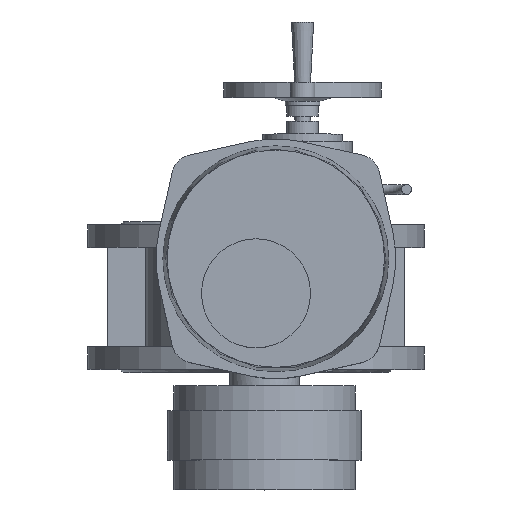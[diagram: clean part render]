
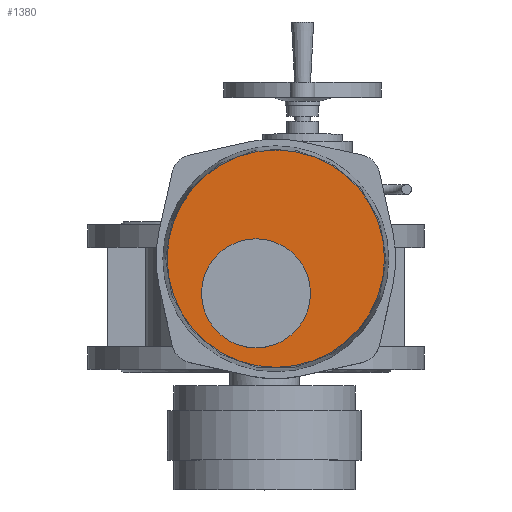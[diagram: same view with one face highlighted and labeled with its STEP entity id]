
A CAD part, top view. The second image highlights one B-rep face of the part: STEP entity #1380.
In plain terms, the highlighted planar face has unit normal (0, 0, 1).
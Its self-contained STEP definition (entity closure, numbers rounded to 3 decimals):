
#1380=ADVANCED_FACE('',(#3291,#3293),#3295,.T.);
#3291=FACE_BOUND('',#3292,.T.);
#3292=EDGE_LOOP('',(#4664));
#3293=FACE_BOUND('',#3294,.T.);
#3294=EDGE_LOOP('',(#4665));
#3295=PLANE('',#3296);
#3296=AXIS2_PLACEMENT_3D('',#3297,#3298,#3299);
#3297=CARTESIAN_POINT('',(20.,38.,509.));
#3298=DIRECTION('',(0.,0.,1.));
#3299=DIRECTION('',(-1.,0.,0.));
#4664=ORIENTED_EDGE('',*,*,#5338,.T.);
#4665=ORIENTED_EDGE('',*,*,#5530,.F.);
#5338=EDGE_CURVE('',#6121,#6121,#6122,.T.);
#5530=EDGE_CURVE('',#6453,#6453,#6454,.T.);
#6121=VERTEX_POINT('',#8688);
#6122=CIRCLE('',#8689,109.703);
#6453=VERTEX_POINT('',#10922);
#6454=CIRCLE('',#10923,55.);
#8688=CARTESIAN_POINT('',(-89.703,38.,509.));
#8689=AXIS2_PLACEMENT_3D('',#8690,#8691,#8692);
#8690=CARTESIAN_POINT('',(20.,38.,509.));
#8691=DIRECTION('',(0.,0.,1.));
#8692=DIRECTION('',(-1.,0.,0.));
#10922=CARTESIAN_POINT('',(-55.,3.,509.));
#10923=AXIS2_PLACEMENT_3D('',#10924,#10925,#10926);
#10924=CARTESIAN_POINT('',(0.,3.,509.));
#10925=DIRECTION('',(0.,0.,1.));
#10926=DIRECTION('',(-1.,0.,0.));
